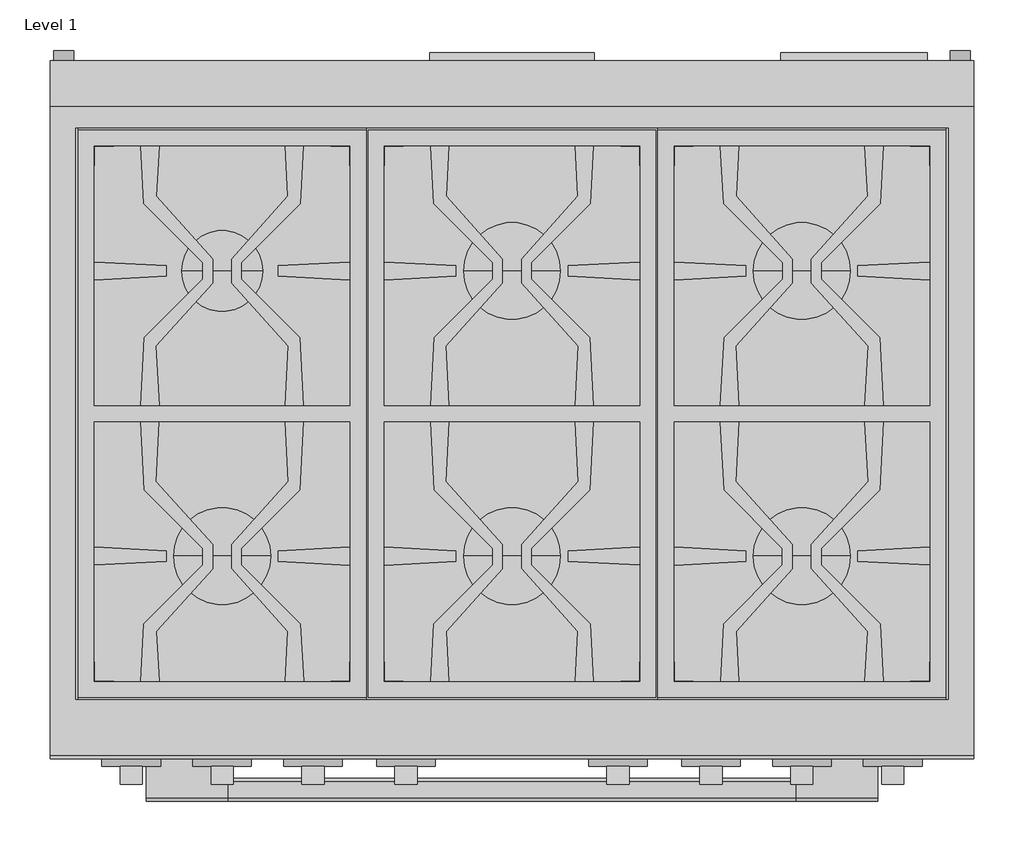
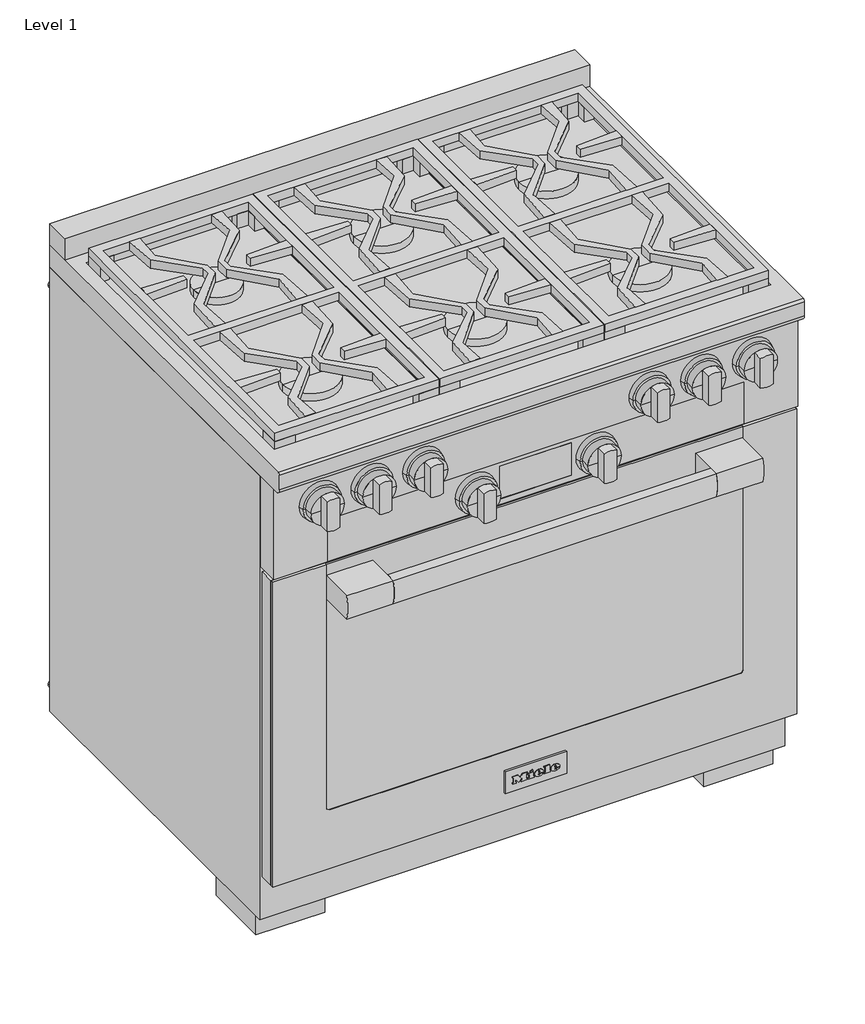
# One storey: 1 proxy.
"""IFC4 building model written with IfcOpenShell, lengths in millimetres."""

from ifc_helpers import new_model, si_unit, origin, place, context, project, spatial, transform, mapped, element, save
from components import specialty_equipment_c9cf899d, specialty_equipment_bb1c697a

model = new_model("IFC4")

# Units and contexts
model_context = context("Model", 3, world=origin())
ifc_project = project(units=[si_unit("LENGTHUNIT", "METRE", prefix="MILLI")], contexts=[model_context])

# Site, building, storey
site = spatial("IfcSite", under=ifc_project)
building = spatial("IfcBuilding", under=site)
storey = spatial("IfcBuildingStorey", under=building, Name="Level 1", Elevation=0.0)

# Proxy
placement = place(None, origin())
specialty_equipment_shape = specialty_equipment_c9cf899d(model_context)
specialty_equipment_2_shape = specialty_equipment_bb1c697a(model_context)
element("IfcBuildingElementProxy", 1, Name="11791430_USA_HR1134-3LP_EDST-CLS : 25113482_USA_11791430_HR1134-3LP_EDST-CLS", ObjectType="11791430_USA_HR1134-3LP_EDST-CLS : 25113482_USA_11791430_HR1134-3LP_EDST-CLS", at=placement, inside=storey, context=model_context, shape_type="MappedRepresentation", body=[
    mapped(specialty_equipment_shape, transform((0.0, 0.0, 0.0), x_axis=(1.0, 0.0, 0.0), y_axis=(0.0, 1.0, 0.0), z_axis=(0.0, 0.0, 1.0))),
    mapped(specialty_equipment_2_shape, transform((0.0, 0.0, 0.0), x_axis=(1.0, 0.0, 0.0), y_axis=(0.0, 1.0, 0.0), z_axis=(0.0, 0.0, 1.0))),
])

save(model, "model.ifc")
